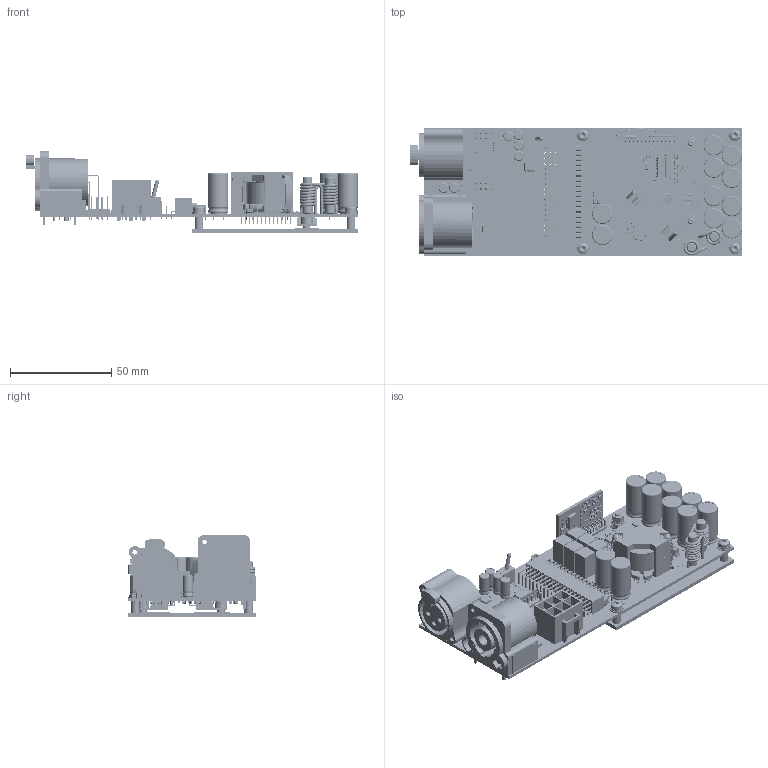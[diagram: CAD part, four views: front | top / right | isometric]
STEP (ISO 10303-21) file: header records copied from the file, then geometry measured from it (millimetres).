
FILE_DESCRIPTION(/* description */ ('Alibre Inc.'),/* implementation_level */ '2;1');
FILE_NAME(/* name */ 'export-C7391E77-0576-495E-8525-57CDD4CA7117',/* time_stamp */ '2021-01-15T11:58:02+01:00',/* author */ (''),/* organization */ (''),/* preprocessor_version */ 'ST-DEVELOPER v17',/* originating_system */ 'Alibre',/* authorisation */ '');
FILE_SCHEMA (('CONFIG_CONTROL_DESIGN'));
Products named in the file (535): Board; 6887923344; U4; SOD323; D4; 6887922704; T2; T1; R33; R14; R13; R11; R10; R5; C13; D3; C12; C11; SW3dPS-LED_SMD0603; D2; C10; C9; 6887919824; J3; R9; R3; C17; SSW-118-02-T-T-RA; J10; R6; R2; R1; D1; C2; J18; J17; J1; C25; C24; U3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
Bounding box: 163.86 x 63 x 40.59 mm (x, y, z)
Volume: 91459.9 mm3; surface area: 97715.8 mm2
Topology: 543 solids, 603 shells, 28688 faces, 70169 edges, 42015 vertices
Faces by surface type: plane 11347, bspline 7832, cylinder 6887, sphere 2190, torus 306, cone 126
Full cylindrical faces by diameter (mm): 0.7 x12, 0.8 x54, 0.9 x138, 0.94 x7, 1 x12, 1.2 x6, 1.6 x8, 1.8 x4, 2 x4, 2.1 x6, 2.459 x2, 2.5 x5, 2.693 x4, 3 x5, 3.2 x26, 3.6 x2, 3.8 x1, 4.2 x4, 5.6 x4, 6 x4, 7 x6
Entity records: 306094 total; most frequent: CARTESIAN_POINT 77013, ORIENTED_EDGE 35316, DIRECTION 30592, EDGE_CURVE 17976, VECTOR 12716, LINE 12716, VERTEX_POINT 11438, AXIS2_PLACEMENT_3D 11355
